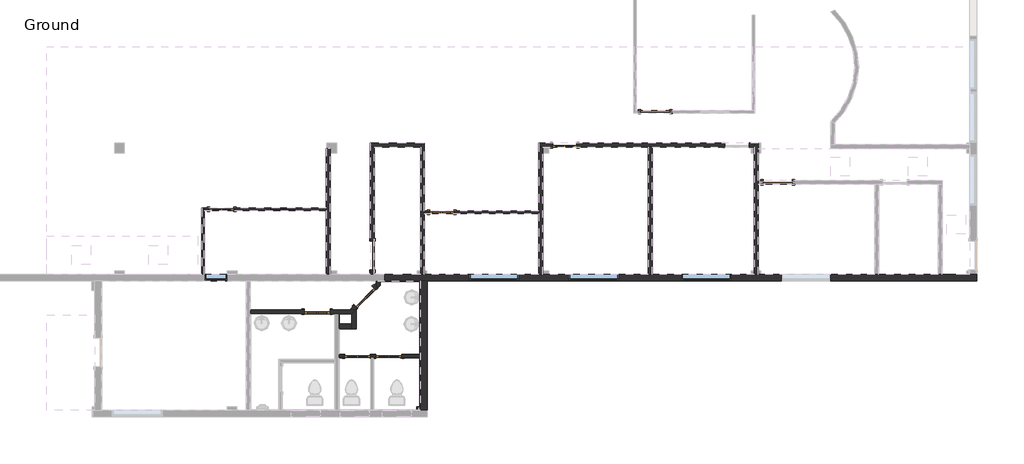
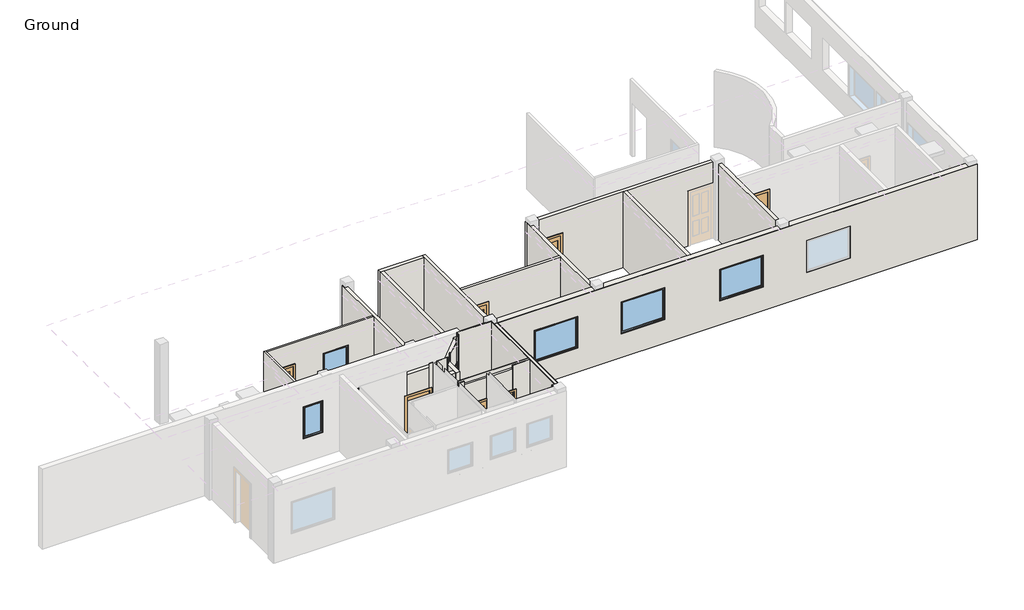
# One storey, part 2 of 4: 34 walls, 10 doors, 5 windows.
"""IFC4 building model written with IfcOpenShell, lengths in millimetres."""

from ifc_helpers import new_model, si_unit, frame, origin, origin_with_axes, place, context, project, spatial, polyline, outline, extrude, faceted_brep, transform, mapped, element, save
from components import door_43f271b1, door_e28fd1ca, door_ea126e43, door_dc1c1a0d, door_456b505c, door_238e255b, door_9f33a548, door_317ed896, window_b7da1b20, window_74e4fc61, window_a0bf6c86

model = new_model("IFC4")

# Units and contexts
model_context = context("Model", 3, world=origin())
ifc_project = project(units=[si_unit("LENGTHUNIT", "METRE", prefix="MILLI")], contexts=[model_context])

# Site, building, storey
site = spatial("IfcSite", under=ifc_project)
building = spatial("IfcBuilding", under=site)
storey = spatial("IfcBuildingStorey", under=building, Name="Ground", Elevation=0.0)

# Doors
placement = place(None, origin())
door_shape = door_43f271b1(model_context)
element("IfcDoor", 1, ObjectType="Single-Flush : 36\" x 80\" - D1", at=placement, inside=storey, context=model_context, shape_type="MappedRepresentation", body=[
    mapped(door_shape, transform((-12274.152824, 11880.82279, 0.0), x_axis=(-0.9999999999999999, 0.0, 0.0), y_axis=(0.0, -0.9999999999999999, 0.0), z_axis=(0.0, 0.0, 1.0))),
])
element("IfcDoor", 2, ObjectType="Single-Flush : 36\" x 80\" - D1", at=placement, inside=storey, context=model_context, shape_type="MappedRepresentation", body=[
    mapped(door_shape, transform((-25082.102824, 9569.42279, 0.0), x_axis=(0.0, -1.0, 0.0), y_axis=(1.0, 0.0, 0.0), z_axis=(0.0, 0.0, 1.0))),
])
door_2_shape = door_e28fd1ca(model_context)
element("IfcDoor", 3, ObjectType="Single-Flush : 36\" x 80\" - D1", at=placement, inside=storey, context=model_context, shape_type="MappedRepresentation", body=[
    mapped(door_2_shape, transform((-16141.302824, 14111.26029, 0.0), x_axis=(-0.9999999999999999, 0.0, 0.0), y_axis=(0.0, -0.9999999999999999, 0.0), z_axis=(0.0, 0.0, 1.0))),
])
door_3_shape = door_ea126e43(model_context)
element("IfcDoor", 4, ObjectType="Single-Glass 3 : 30\" x 80\" - D3", at=placement, inside=storey, context=model_context, shape_type="MappedRepresentation", body=[
    mapped(door_3_shape, transform((-22891.352824, 10934.67279, 0.0), x_axis=(-1.0, 0.0, 0.0), y_axis=(0.0, -1.0, 0.0), z_axis=(0.0, 0.0, 1.0))),
])
element("IfcDoor", 5, ObjectType="Single-Glass 3 : 30\" x 80\" - D3", at=placement, inside=storey, context=model_context, shape_type="MappedRepresentation", body=[
    mapped(door_3_shape, transform((-29843.015324, 11026.74779, 0.0), x_axis=(-1.0, 0.0, 0.0), y_axis=(0.0, -1.0, 0.0), z_axis=(0.0, 0.0, 1.0))),
])
door_4_shape = door_dc1c1a0d(model_context)
element("IfcDoor", 6, ObjectType="Single-Glass 3 : 30\" x 80\" - D3", at=placement, inside=storey, context=model_context, shape_type="MappedRepresentation", body=[
    mapped(door_4_shape, transform((-19005.152824, 13055.57279, 0.0), x_axis=(-1.0, 0.0, 0.0), y_axis=(0.0, -1.0, 0.0), z_axis=(0.0, 0.0, 1.0))),
])
door_5_shape = door_456b505c(model_context)
element("IfcDoor", 7, ObjectType="Single-Glass 3 : 32\" x 80\" - D2", at=placement, inside=storey, context=model_context, shape_type="MappedRepresentation", body=[
    mapped(door_5_shape, transform((-25552.002824, 6378.54779, 0.0), x_axis=(1.0, 0.0, 0.0), y_axis=(0.0, 1.0, 0.0), z_axis=(0.0, 0.0, 1.0))),
])
door_6_shape = door_238e255b(model_context)
element("IfcDoor", 8, ObjectType="Single-Glass 3 : 32\" x 80\" - D2", at=placement, inside=storey, context=model_context, shape_type="MappedRepresentation", body=[
    mapped(door_6_shape, transform((-25316.8739196, 8245.6266944, 0.0), x_axis=(-0.707106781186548, -0.7071067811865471, 0.0), y_axis=(0.7071067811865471, -0.707106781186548, 0.0), z_axis=(0.0, 0.0, 1.0))),
])
door_7_shape = door_9f33a548(model_context)
element("IfcDoor", 9, ObjectType="Single-Glass 3 : 32\" x 80\" - D2", at=placement, inside=storey, context=model_context, shape_type="MappedRepresentation", body=[
    mapped(door_7_shape, transform((-26822.002824, 7788.24779, 0.0), x_axis=(1.0, 0.0, 0.0), y_axis=(0.0, 1.0, 0.0), z_axis=(0.0, 0.0, 1.0))),
])
door_8_shape = door_317ed896(model_context)
element("IfcDoor", 10, ObjectType="Single-Glass 3 : 32\" x 80\" - D2", at=placement, inside=storey, context=model_context, shape_type="MappedRepresentation", body=[
    mapped(door_8_shape, transform((-24561.402824, 6378.54779, 0.0), x_axis=(-1.0, 0.0, 0.0), y_axis=(0.0, -1.0, 0.0), z_axis=(0.0, 0.0, 1.0))),
])

# Walls
element("IfcWall", 11, ObjectType="0.5\" wall tiles-4\" x 6\"", at=placement, inside=storey, context=model_context, shape_type="SweptSolid", body=[
    extrude(outline(polyline([(-26415.602824, 7724.74779), (-26275.902824, 7724.74779), (-26275.902824, 7712.04779), (-26415.602824, 7712.04779), (-26415.602824, 7724.74779)])), origin_with_axes(), (0.0, 0.0, 1.0), 3048.0),
])
element("IfcWall", 12, ObjectType="0.5\" wall tiles-4\" x 6\"", at=placement, inside=storey, context=model_context, shape_type="Brep", body=[
    faceted_brep([(-25560.375674, 7914.5674429, 0.0), (-25586.4560212, 7888.4870957, 0.0), (-25586.4560212, 7888.4870957, 2743.2), (-25586.4560212, 7888.4870957, 3048.0), (-25560.375674, 7914.5674429, 3048.0), (-25551.3954179, 7905.5871868, 0.0), (-25551.3954179, 7905.5871868, 3048.0), (-25586.4560212, 7870.5265835, 3048.0), (-25586.4560212, 7870.5265835, 0.0)], [[[0, 1, 2, 3, 4]], [[5, 6, 7, 8]], [[1, 0, 5, 8]], [[4, 3, 7, 6]], [[0, 4, 6, 5]], [[3, 2, 1, 8, 7]]]),
])
element("IfcWall", 13, ObjectType="0.5\" wall tiles-4\" x 6\"", at=placement, inside=storey, context=model_context, shape_type="Brep", body=[
    faceted_brep([(-25750.1953269, 7724.74779, 0.0), (-26136.202824, 7724.74779, 0.0), (-26136.202824, 7724.74779, 3048.0), (-25750.1953269, 7724.74779, 3048.0), (-25762.8953269, 7712.04779, 0.0), (-25762.8953269, 7712.04779, 3048.0), (-26123.502824, 7712.04779, 3048.0), (-26136.202824, 7712.04779, 3048.0), (-26136.202824, 7712.04779, 0.0), (-26123.502824, 7712.04779, 0.0)], [[[0, 1, 2, 3]], [[4, 5, 6, 7, 8, 9]], [[1, 0, 4, 9, 8]], [[3, 2, 7, 6, 5]], [[2, 1, 8, 7]], [[0, 3, 5, 4]]]),
])
element("IfcWall", 14, ObjectType="0.5\" wall tiles-4\" x 6\"", at=placement, inside=storey, context=model_context, shape_type="Brep", body=[
    faceted_brep([(-26136.202824, 7712.04779, 0.0), (-26136.202824, 7394.54779, 0.0), (-26136.202824, 7394.54779, 2743.2), (-26136.202824, 7394.54779, 3048.0), (-26136.202824, 7712.04779, 3048.0), (-26123.502824, 7712.04779, 0.0), (-26123.502824, 7712.04779, 3048.0), (-26123.502824, 7394.54779, 3048.0), (-26123.502824, 7394.54779, 0.0)], [[[0, 1, 2, 3, 4]], [[5, 6, 7, 8]], [[1, 0, 5, 8]], [[4, 3, 7, 6]], [[0, 4, 6, 5]], [[3, 2, 1, 8, 7]]]),
])
element("IfcWall", 15, ObjectType="0.5\" wall tiles-4\" x 6\"", at=placement, inside=storey, context=model_context, shape_type="Brep", body=[
    faceted_brep([(-25145.7268406, 6418.23529, 2032.0), (-25145.7268406, 6418.23529, 0.0), (-24967.6788075, 6418.23529, 0.0), (-24967.6788075, 6418.23529, 2032.0), (-24154.8788075, 6418.23529, 2032.0), (-24154.8788075, 6418.23529, 0.0), (-23566.040324, 6418.23529, 0.0), (-23566.040324, 6418.23529, 2895.6), (-23566.040324, 6418.23529, 3048.0), (-26136.202824, 6418.23529, 3048.0), (-26136.202824, 6418.23529, 2895.6), (-26136.202824, 6418.23529, 0.0), (-25958.5268406, 6418.23529, 0.0), (-25958.5268406, 6418.23529, 2032.0), (-24967.6788075, 6430.93529, 0.0), (-25145.7268406, 6430.93529, 0.0), (-25145.7268406, 6430.93529, 2032.0), (-25958.5268406, 6430.93529, 2032.0), (-25958.5268406, 6430.93529, 0.0), (-26123.502824, 6430.93529, 0.0), (-26136.202824, 6430.93529, 0.0), (-26136.202824, 6430.93529, 3048.0), (-26123.502824, 6430.93529, 3048.0), (-23578.740324, 6430.93529, 3048.0), (-23566.040324, 6430.93529, 3048.0), (-23566.040324, 6430.93529, 0.0), (-23578.740324, 6430.93529, 0.0), (-24154.8788075, 6430.93529, 0.0), (-24154.8788075, 6430.93529, 2032.0), (-24967.6788075, 6430.93529, 2032.0)], [[[0, 1, 2, 3, 4, 5, 6, 7, 8, 9, 10, 11, 12, 13]], [[14, 15, 16, 17, 18, 19, 20, 21, 22, 23, 24, 25, 26, 27, 28, 29]], [[2, 1, 15, 14]], [[27, 26, 25, 6, 5]], [[12, 11, 20, 19, 18]], [[9, 8, 24, 23, 22, 21]], [[11, 10, 9, 21, 20]], [[8, 7, 6, 25, 24]], [[3, 2, 14, 29]], [[4, 3, 29, 28]], [[5, 4, 28, 27]], [[16, 15, 1, 0]], [[17, 16, 0, 13]], [[18, 17, 13, 12]]]),
])
element("IfcWall", 16, ObjectType="0.5\" wall tiles-4\" x 6\"", at=placement, inside=storey, context=model_context, shape_type="Brep", body=[
    faceted_brep([(-25738.8560212, 7736.0870957, 0.0), (-25750.1953269, 7724.74779, 0.0), (-25762.8953269, 7712.04779, 0.0), (-25762.8953269, 7712.04779, 3048.0), (-25750.1953269, 7724.74779, 3048.0), (-25738.8560212, 7736.0870957, 3048.0), (-25738.8560212, 7736.0870957, 2743.2), (-25738.8560212, 7718.1265835, 0.0), (-25738.8560212, 7718.1265835, 3048.0), (-25744.9348146, 7712.04779, 3048.0), (-25744.9348146, 7712.04779, 0.0)], [[[0, 1, 2, 3, 4, 5, 6]], [[7, 8, 9, 10]], [[2, 1, 0, 7, 10]], [[5, 4, 3, 9, 8]], [[3, 2, 10, 9]], [[0, 6, 5, 8, 7]]]),
])
element("IfcWall", 17, ObjectType="0.5\" wall tiles-4\" x 6\"", at=placement, inside=storey, context=model_context, shape_type="Brep", body=[
    faceted_brep([(-23566.040324, 6430.93529, 0.0), (-23566.040324, 8753.44779, 0.0), (-23566.040324, 8753.44779, 3048.0), (-23566.040324, 6430.93529, 3048.0), (-23578.740324, 6430.93529, 0.0), (-23578.740324, 6430.93529, 3048.0), (-23578.740324, 8740.74779, 3048.0), (-23578.740324, 8753.44779, 3048.0), (-23578.740324, 8753.44779, 0.0), (-23578.740324, 8740.74779, 0.0)], [[[0, 1, 2, 3]], [[4, 5, 6, 7, 8, 9]], [[1, 0, 4, 9, 8]], [[3, 2, 7, 6, 5]], [[2, 1, 8, 7]], [[0, 3, 5, 4]]]),
])
element("IfcWall", 18, ObjectType="0.5\" wall tiles-4\" x 6\"", at=placement, inside=storey, context=model_context, shape_type="Brep", body=[
    faceted_brep([(-23578.740324, 8753.44779, 0.0), (-24836.040324, 8753.44779, 0.0), (-24836.040324, 8753.44779, 3048.0), (-23578.740324, 8753.44779, 3048.0), (-23578.740324, 8740.74779, 0.0), (-23578.740324, 8740.74779, 3048.0), (-24823.340324, 8740.74779, 3048.0), (-24836.040324, 8740.74779, 3048.0), (-24836.040324, 8740.74779, 0.0), (-24823.340324, 8740.74779, 0.0)], [[[0, 1, 2, 3]], [[4, 5, 6, 7, 8, 9]], [[1, 0, 4, 9, 8]], [[3, 2, 7, 6, 5]], [[2, 1, 8, 7]], [[0, 3, 5, 4]]]),
])
element("IfcWall", 19, ObjectType="0.5\" wall tiles-4\" x 6\"", at=placement, inside=storey, context=model_context, shape_type="Brep", body=[
    faceted_brep([(-24836.040324, 8740.74779, 0.0), (-24836.040324, 8638.9027929, 0.0), (-24836.040324, 8620.9422806, 0.0), (-24836.040324, 8620.9422806, 3048.0), (-24836.040324, 8638.9027929, 3048.0), (-24836.040324, 8740.74779, 3048.0), (-24823.340324, 8740.74779, 0.0), (-24823.340324, 8740.74779, 3048.0), (-24823.340324, 8633.6422806, 3048.0), (-24823.340324, 8633.6422806, 0.0)], [[[0, 1, 2, 3, 4, 5]], [[6, 7, 8, 9]], [[2, 1, 0, 6, 9]], [[5, 4, 3, 8, 7]], [[3, 2, 9, 8]], [[0, 5, 7, 6]]]),
])
element("IfcWall", 20, ObjectType="0.5\" wall tiles-4\" x 6\"", at=placement, inside=storey, context=model_context, shape_type="SweptSolid", body=[
    extrude(outline(polyline([(-24984.7299377, 8490.2131792), (-24836.040324, 8638.9027929), (-24836.040324, 8620.9422806), (-24975.7496815, 8481.2329231), (-24984.7299377, 8490.2131792)])), origin_with_axes(), (0.0, 0.0, 1.0), 3048.0),
])
element("IfcWall", 21, ObjectType="0.5\" wall tiles-4\" x 6\"", at=placement, inside=storey, context=model_context, shape_type="Brep", body=[
    faceted_brep([(-25958.5268406, 6338.86029, 0.0), (-26136.202824, 6338.86029, 0.0), (-26136.202824, 6338.86029, 3048.0), (-25958.5268406, 6338.86029, 3048.0), (-25958.5268406, 6326.16029, 0.0), (-25958.5268406, 6326.16029, 3048.0), (-26123.502824, 6326.16029, 3048.0), (-26136.202824, 6326.16029, 3048.0), (-26136.202824, 6326.16029, 0.0), (-26123.502824, 6326.16029, 0.0)], [[[0, 1, 2, 3]], [[4, 5, 6, 7, 8, 9]], [[1, 0, 4, 9, 8]], [[3, 2, 7, 6, 5]], [[0, 3, 5, 4]], [[2, 1, 8, 7]]]),
])
element("IfcWall", 22, ObjectType="0.5\" wall tiles-4\" x 6\"", at=placement, inside=storey, context=model_context, shape_type="Brep", body=[
    faceted_brep([(-23664.465324, 4687.86029, 0.0), (-23664.465324, 4773.58529, 0.0), (-23664.465324, 4786.28529, 0.0), (-23664.465324, 4786.28529, 3048.0), (-23664.465324, 4773.58529, 3048.0), (-23664.465324, 4687.86029, 3048.0), (-23677.165324, 4687.86029, 0.0), (-23677.165324, 4687.86029, 3048.0), (-23677.165324, 4786.28529, 3048.0), (-23677.165324, 4786.28529, 0.0)], [[[0, 1, 2, 3, 4, 5]], [[6, 7, 8, 9]], [[2, 1, 0, 6, 9]], [[5, 4, 3, 8, 7]], [[3, 2, 9, 8]], [[0, 5, 7, 6]]]),
])
element("IfcWall", 23, ObjectType="0.5\" wall tiles-4\" x 6\"", at=placement, inside=storey, context=model_context, shape_type="Brep", body=[
    faceted_brep([(-23664.465324, 4773.58529, 0.0), (-23566.040324, 4773.58529, 0.0), (-23566.040324, 4773.58529, 3048.0), (-23664.465324, 4773.58529, 3048.0), (-23664.465324, 4786.28529, 0.0), (-23664.465324, 4786.28529, 3048.0), (-23578.740324, 4786.28529, 3048.0), (-23566.040324, 4786.28529, 3048.0), (-23566.040324, 4786.28529, 0.0), (-23578.740324, 4786.28529, 0.0)], [[[0, 1, 2, 3]], [[4, 5, 6, 7, 8, 9]], [[1, 0, 4, 9, 8]], [[3, 2, 7, 6, 5]], [[2, 1, 8, 7]], [[0, 3, 5, 4]]]),
])
element("IfcWall", 24, ObjectType="0.5\" wall tiles-4\" x 6\"", at=placement, inside=storey, context=model_context, shape_type="Brep", body=[
    faceted_brep([(-23566.040324, 4786.28529, 0.0), (-23566.040324, 6338.86029, 0.0), (-23566.040324, 6338.86029, 3048.0), (-23566.040324, 4786.28529, 3048.0), (-23578.740324, 4786.28529, 0.0), (-23578.740324, 4786.28529, 3048.0), (-23578.740324, 6326.16029, 3048.0), (-23578.740324, 6338.86029, 3048.0), (-23578.740324, 6338.86029, 0.0), (-23578.740324, 6326.16029, 0.0)], [[[0, 1, 2, 3]], [[4, 5, 6, 7, 8, 9]], [[1, 0, 4, 9, 8]], [[3, 2, 7, 6, 5]], [[2, 1, 8, 7]], [[0, 3, 5, 4]]]),
])
element("IfcWall", 25, ObjectType="0.5\" wall tiles-4\" x 6\"", at=placement, inside=storey, context=model_context, shape_type="SweptSolid", body=[
    extrude(outline(polyline([(-24204.3928001, 6338.86029), (-23578.740324, 6338.86029), (-23578.740324, 6326.16029), (-24204.3928001, 6326.16029), (-24204.3928001, 6338.86029)])), origin_with_axes(), (0.0, 0.0, 1.0), 3048.0),
])
element("IfcWall", 26, ObjectType="Generic - 6\"", at=placement, inside=storey, context=model_context, shape_type="Brep", body=[
    faceted_brep([(-25738.8560212, 7736.0870957, 0.0), (-25738.8560212, 7718.1265835, 0.0), (-25738.8560212, 7394.54779, 0.0), (-25738.8560212, 7242.14779, 0.0), (-25738.8560212, 7242.14779, 2743.2), (-25738.8560212, 7394.54779, 2743.2), (-25738.8560212, 7736.0870957, 2743.2), (-25586.4560212, 7888.4870957, 0.0), (-25586.4560212, 7888.4870957, 2743.2), (-25586.4560212, 7242.14779, 2743.2), (-25586.4560212, 7242.14779, 0.0), (-25586.4560212, 7870.5265835, 0.0), (-25623.1953269, 7851.74779, 0.0)], [[[0, 1, 2, 3, 4, 5, 6]], [[7, 8, 9, 10, 11]], [[3, 2, 1, 0, 12, 7, 11, 10]], [[6, 5, 4, 9, 8]], [[4, 3, 10, 9]], [[0, 6, 8, 7, 12]]]),
])
element("IfcWall", 27, ObjectType="Generic - 6\"", at=placement, inside=storey, context=model_context, shape_type="Brep", body=[
    faceted_brep([(-25738.8560212, 7394.54779, 0.0), (-26123.502824, 7394.54779, 0.0), (-26136.202824, 7394.54779, 0.0), (-26136.202824, 7394.54779, 2743.2), (-25738.8560212, 7394.54779, 2743.2), (-25738.8560212, 7242.14779, 0.0), (-25738.8560212, 7242.14779, 2743.2), (-26136.202824, 7242.14779, 2743.2), (-26136.202824, 7242.14779, 0.0), (-26123.502824, 7242.14779, 0.0)], [[[0, 1, 2, 3, 4]], [[5, 6, 7, 8, 9]], [[2, 1, 0, 5, 9, 8]], [[4, 3, 7, 6]], [[3, 2, 8, 7]], [[0, 4, 6, 5]]]),
])
element("IfcWall", 28, ObjectType="Generic - 8\" Masonry existing", at=placement, inside=storey, context=model_context, shape_type="Brep", body=[
    faceted_brep([(-24701.102824, 8753.44779, 0.0), (-24701.102824, 8753.44779, 2895.6), (-24701.102824, 8766.14779, 2895.6), (-24701.102824, 8972.52279, 2895.6), (-24701.102824, 8972.52279, 0.0), (-5986.065324, 8753.44779, 0.0), (-23346.965324, 8753.44779, 0.0), (-23566.040324, 8753.44779, 0.0), (-23556.515324, 8972.52279, 0.0), (-23432.690324, 8972.52279, 0.0), (-19827.477824, 8972.52279, 0.0), (-19703.652824, 8972.52279, 0.0), (-16355.615324, 8972.52279, 0.0), (-16231.790324, 8972.52279, 0.0), (-13015.515324, 8972.52279, 0.0), (-12891.690324, 8972.52279, 0.0), (-9207.102824, 8972.52279, 0.0), (-9083.277824, 8972.52279, 0.0), (-7195.740324, 8972.52279, 0.0), (-7071.915324, 8972.52279, 0.0), (-6205.140324, 8972.52279, 0.0), (-5986.065324, 8972.52279, 0.0), (-5986.065324, 8753.44779, 2895.6), (-5998.765324, 8753.44779, 2895.6), (-23346.965324, 8753.44779, 2895.6), (-23566.040324, 8753.44779, 2895.6), (-22021.402824, 8753.44779, 2133.6), (-20446.602824, 8753.44779, 2133.6), (-20446.602824, 8753.44779, 914.4), (-22021.402824, 8753.44779, 914.4), (-18871.802824, 8753.44779, 2133.6), (-17297.002824, 8753.44779, 2133.6), (-17297.002824, 8753.44779, 914.4), (-18871.802824, 8753.44779, 914.4), (-12166.202824, 8753.44779, 2133.6), (-10591.402824, 8753.44779, 2133.6), (-10591.402824, 8753.44779, 914.4), (-12166.202824, 8753.44779, 914.4), (-15315.802824, 8753.44779, 2133.6), (-13741.002824, 8753.44779, 2133.6), (-13741.002824, 8753.44779, 914.4), (-15315.802824, 8753.44779, 914.4), (-23556.515324, 8972.52279, 2895.6), (-23432.690324, 8972.52279, 2895.6), (-19827.477824, 8972.52279, 2895.6), (-19703.652824, 8972.52279, 2895.6), (-16355.615324, 8972.52279, 2895.6), (-16231.790324, 8972.52279, 2895.6), (-13015.515324, 8972.52279, 2895.6), (-12891.690324, 8972.52279, 2895.6), (-9207.102824, 8972.52279, 2895.6), (-9083.277824, 8972.52279, 2895.6), (-7195.740324, 8972.52279, 2895.6), (-7071.915324, 8972.52279, 2895.6), (-6205.140324, 8972.52279, 2895.6), (-5998.765324, 8972.52279, 2895.6), (-5986.065324, 8972.52279, 2895.6), (-22021.402824, 8972.52279, 2133.6), (-22021.402824, 8972.52279, 914.4), (-20446.602824, 8972.52279, 914.4), (-20446.602824, 8972.52279, 2133.6), (-18871.802824, 8972.52279, 2133.6), (-18871.802824, 8972.52279, 914.4), (-17297.002824, 8972.52279, 914.4), (-17297.002824, 8972.52279, 2133.6), (-12166.202824, 8972.52279, 2133.6), (-12166.202824, 8972.52279, 914.4), (-10591.402824, 8972.52279, 914.4), (-10591.402824, 8972.52279, 2133.6), (-15315.802824, 8972.52279, 2133.6), (-15315.802824, 8972.52279, 914.4), (-13741.002824, 8972.52279, 914.4), (-13741.002824, 8972.52279, 2133.6), (-5986.065324, 8766.14779, 2895.6), (-5998.765324, 8766.14779, 2895.6), (-23359.665324, 8766.14779, 2895.6)], [[[0, 1, 2, 3, 4]], [[5, 6, 7, 0, 4, 8, 9, 10, 11, 12, 13, 14, 15, 16, 17, 18, 19, 20, 21]], [[0, 7, 6, 5, 22, 23, 24, 25, 1], [26, 27, 28, 29], [30, 31, 32, 33], [34, 35, 36, 37], [38, 39, 40, 41]], [[4, 3, 42, 43, 44, 45, 46, 47, 48, 49, 50, 51, 52, 53, 54, 55, 56, 21, 20, 19, 18, 17, 16, 15, 14, 13, 12, 11, 10, 9, 8], [57, 58, 59, 60], [61, 62, 63, 64], [65, 66, 67, 68], [69, 70, 71, 72]], [[22, 5, 21, 56, 73]], [[1, 25, 24, 23, 74, 75, 2]], [[73, 56, 55, 74]], [[23, 22, 73, 74]], [[74, 55, 54, 53, 52, 51, 50, 49, 48, 47, 46, 45, 44, 43, 42, 3, 2, 75]], [[58, 57, 26, 29]], [[59, 58, 29, 28]], [[60, 59, 28, 27]], [[57, 60, 27, 26]], [[62, 61, 30, 33]], [[63, 62, 33, 32]], [[64, 63, 32, 31]], [[61, 64, 31, 30]], [[66, 65, 34, 37]], [[67, 66, 37, 36]], [[68, 67, 36, 35]], [[65, 68, 35, 34]], [[70, 69, 38, 41]], [[71, 70, 41, 40]], [[72, 71, 40, 39]], [[69, 72, 39, 38]]]),
])
element("IfcWall", 29, ObjectType="Generic - 8\" Masonry existing", at=placement, inside=storey, context=model_context, shape_type="Brep", body=[
    faceted_brep([(-23566.040324, 8753.44779, 0.0), (-23566.040324, 6418.23529, 0.0), (-23566.040324, 6338.86029, 0.0), (-23566.040324, 4675.16029, 0.0), (-23566.040324, 4675.16029, 2895.6), (-23566.040324, 6338.86029, 2895.6), (-23566.040324, 6418.23529, 2895.6), (-23566.040324, 8753.44779, 2895.6), (-23346.965324, 8753.44779, 0.0), (-23346.965324, 8753.44779, 2895.6), (-23346.965324, 4675.16029, 2895.6), (-23346.965324, 4675.16029, 0.0), (-23359.665324, 4675.16029, 2895.6), (-23359.665324, 8753.44779, 2895.6)], [[[0, 1, 2, 3, 4, 5, 6, 7]], [[8, 9, 10, 11]], [[3, 2, 1, 0, 8, 11]], [[4, 3, 11, 10, 12]], [[0, 7, 13, 9, 8]], [[12, 10, 9, 13]], [[7, 6, 5, 4, 12, 13]]]),
])
element("IfcWall", 30, ObjectType="Interior - 3 1/8\" Partition (1-hr)", at=placement, inside=storey, context=model_context, shape_type="Brep", body=[
    faceted_brep([(-30476.427824, 11066.43529, 0.0), (-30476.427824, 8972.52279, 0.0), (-30476.427824, 8972.52279, 2895.6), (-30476.427824, 11066.43529, 2895.6), (-30397.052824, 11066.43529, 0.0), (-30397.052824, 11066.43529, 2895.6), (-30397.052824, 10987.06029, 2895.6), (-30397.052824, 8972.52279, 2895.6), (-30397.052824, 8972.52279, 0.0), (-30397.052824, 10987.06029, 0.0)], [[[0, 1, 2, 3]], [[4, 5, 6, 7, 8, 9]], [[1, 0, 4, 9, 8]], [[3, 2, 7, 6, 5]], [[0, 3, 5, 4]], [[2, 1, 8, 7]]]),
])
element("IfcWall", 31, ObjectType="Interior - 3 1/8\" Partition (1-hr)", at=placement, inside=storey, context=model_context, shape_type="SweptSolid", body=[
    extrude(outline(polyline([(0.0, -23432.690324), (0.0, -23272.2288075), (2032.0, -23272.2288075), (2032.0, -22510.2288075), (0.0, -22510.2288075), (0.0, -19827.477824), (2895.6, -19827.477824), (2895.6, -23432.690324), (0.0, -23432.690324)])), frame((0.0, 10894.98529, 0.0), z_axis=(0.0, 1.0, 0.0), x_axis=(0.0, 0.0, 1.0)), (0.0, 0.0, 1.0), 79.375),
])
element("IfcWall", 32, ObjectType="Interior - 3 1/8\" Partition (1-hr)", at=placement, inside=storey, context=model_context, shape_type="SweptSolid", body=[
    extrude(outline(polyline([(0.0, -30397.052824), (0.0, -30223.8913075), (2032.0, -30223.8913075), (2032.0, -29461.8913075), (0.0, -29461.8913075), (0.0, -26533.077824), (2895.6, -26533.077824), (2895.6, -30397.052824), (0.0, -30397.052824)]), holes=[polyline([(2133.6, -28369.815324), (2133.6, -27455.415324), (914.4, -27455.415324), (914.4, -28369.815324), (2133.6, -28369.815324)])]), frame((0.0, 10987.06029, 0.0), z_axis=(0.0, 1.0, 0.0), x_axis=(0.0, 0.0, 1.0)), (0.0, 0.0, 1.0), 79.375),
])
element("IfcWall", 33, ObjectType="Interior - 3 1/8\" Partition (1-hr)", at=placement, inside=storey, context=model_context, shape_type="Brep", body=[
    faceted_brep([(-25145.7268406, 6338.86029, 2032.0), (-25145.7268406, 6338.86029, 0.0), (-25123.377824, 6338.86029, 0.0), (-25044.002824, 6338.86029, 0.0), (-24967.6788075, 6338.86029, 0.0), (-24967.6788075, 6338.86029, 2032.0), (-24154.8788075, 6338.86029, 2032.0), (-24154.8788075, 6338.86029, 0.0), (-23566.040324, 6338.86029, 0.0), (-23566.040324, 6338.86029, 2895.6), (-25044.002824, 6338.86029, 2895.6), (-25123.377824, 6338.86029, 2895.6), (-26136.202824, 6338.86029, 2895.6), (-26136.202824, 6338.86029, 0.0), (-25958.5268406, 6338.86029, 0.0), (-25958.5268406, 6338.86029, 2032.0), (-24967.6788075, 6418.23529, 0.0), (-25145.7268406, 6418.23529, 0.0), (-25145.7268406, 6418.23529, 2032.0), (-25958.5268406, 6418.23529, 2032.0), (-25958.5268406, 6418.23529, 0.0), (-26136.202824, 6418.23529, 0.0), (-26136.202824, 6418.23529, 2895.6), (-23566.040324, 6418.23529, 2895.6), (-23566.040324, 6418.23529, 0.0), (-24154.8788075, 6418.23529, 0.0), (-24154.8788075, 6418.23529, 2032.0), (-24967.6788075, 6418.23529, 2032.0)], [[[0, 1, 2, 3, 4, 5, 6, 7, 8, 9, 10, 11, 12, 13, 14, 15]], [[16, 17, 18, 19, 20, 21, 22, 23, 24, 25, 26, 27]], [[4, 3, 2, 1, 17, 16]], [[25, 24, 8, 7]], [[14, 13, 21, 20]], [[12, 11, 10, 9, 23, 22]], [[9, 8, 24, 23]], [[13, 12, 22, 21]], [[5, 4, 16, 27]], [[6, 5, 27, 26]], [[7, 6, 26, 25]], [[18, 17, 1, 0]], [[19, 18, 0, 15]], [[20, 19, 15, 14]]]),
])
element("IfcWall", 34, ObjectType="Interior - 5 1/2\" Partition (1-hr)", at=placement, inside=storey, context=model_context, shape_type="Brep", body=[
    faceted_brep([(-12891.690324, 8972.52279, 0.0), (-12891.690324, 11818.91029, 0.0), (-12891.690324, 11942.73529, 0.0), (-12891.690324, 13117.48529, 0.0), (-12891.690324, 13117.48529, 2895.6), (-12891.690324, 11942.73529, 2895.6), (-12891.690324, 11818.91029, 2895.6), (-12891.690324, 8972.52279, 2895.6), (-13015.515324, 8972.52279, 0.0), (-13015.515324, 8972.52279, 2895.6), (-13015.515324, 12993.66029, 2895.6), (-13015.515324, 13117.48529, 2895.6), (-13015.515324, 13117.48529, 0.0), (-13015.515324, 12993.66029, 0.0)], [[[0, 1, 2, 3, 4, 5, 6, 7]], [[8, 9, 10, 11, 12, 13]], [[3, 2, 1, 0, 8, 13, 12]], [[7, 6, 5, 4, 11, 10, 9]], [[4, 3, 12, 11]], [[0, 7, 9, 8]]]),
])
element("IfcWall", 35, ObjectType="Interior - 5 1/2\" Partition (1-hr)", at=placement, inside=storey, context=model_context, shape_type="Brep", body=[
    faceted_brep([(-13015.515324, 12993.66029, 0.0), (-13175.9768406, 12993.66029, 0.0), (-13175.9768406, 13117.48529, 0.0), (-13015.515324, 13117.48529, 0.0), (-19827.477824, 12993.66029, 0.0), (-19827.477824, 13117.48529, 0.0), (-19386.0288075, 13117.48529, 0.0), (-19386.0288075, 12993.66029, 0.0), (-19703.652824, 12993.66029, 0.0), (-13937.9768406, 12993.66029, 0.0), (-16231.790324, 12993.66029, 0.0), (-16355.615324, 12993.66029, 0.0), (-18624.0288075, 12993.66029, 0.0), (-18624.0288075, 13117.48529, 0.0), (-13937.9768406, 13117.48529, 0.0), (-13015.515324, 13117.48529, 2895.6), (-19827.477824, 13117.48529, 2895.6), (-19827.477824, 12993.66029, 2895.6), (-19703.652824, 12993.66029, 2895.6), (-16355.615324, 12993.66029, 2895.6), (-16231.790324, 12993.66029, 2895.6), (-13015.515324, 12993.66029, 2895.6), (-13175.9768406, 13117.48529, 2032.0), (-13937.9768406, 13117.48529, 2032.0), (-18624.0288075, 13117.48529, 2032.0), (-19386.0288075, 13117.48529, 2032.0), (-13175.9768406, 12993.66029, 2032.0), (-19386.0288075, 12993.66029, 2032.0), (-18624.0288075, 12993.66029, 2032.0), (-13937.9768406, 12993.66029, 2032.0)], [[[0, 1, 2, 3]], [[4, 5, 6, 7, 8]], [[9, 10, 11, 12, 13, 14]], [[15, 16, 17, 18, 19, 20, 21]], [[3, 2, 22, 23, 14, 13, 24, 25, 6, 5, 16, 15]], [[26, 1, 0, 21, 20, 19, 18, 17, 4, 8, 7, 27, 28, 12, 11, 10, 9, 29]], [[3, 15, 21, 0]], [[16, 5, 4, 17]], [[25, 27, 7, 6]], [[27, 25, 24, 28]], [[28, 24, 13, 12]], [[22, 2, 1, 26]], [[23, 22, 26, 29]], [[14, 23, 29, 9]]]),
])
element("IfcWall", 36, ObjectType="Interior - 5 1/2\" Partition (1-hr)", at=placement, inside=storey, context=model_context, shape_type="SweptSolid", body=[
    extrude(outline(polyline([(-16355.615324, 8972.52279), (-16355.615324, 12993.66029), (-16231.790324, 12993.66029), (-16231.790324, 8972.52279), (-16355.615324, 8972.52279)])), origin_with_axes(), (0.0, 0.0, 1.0), 2895.6),
])
element("IfcWall", 37, ObjectType="Interior - 5 1/2\" Partition (1-hr)", at=placement, inside=storey, context=model_context, shape_type="Brep", body=[
    faceted_brep([(-19703.652824, 8972.52279, 0.0), (-19703.652824, 12993.66029, 0.0), (-19703.652824, 12993.66029, 2895.6), (-19703.652824, 8972.52279, 2895.6), (-19827.477824, 8972.52279, 0.0), (-19827.477824, 8972.52279, 2895.6), (-19827.477824, 10894.98529, 2895.6), (-19827.477824, 10974.36029, 2895.6), (-19827.477824, 12993.66029, 2895.6), (-19827.477824, 12993.66029, 0.0), (-19827.477824, 10974.36029, 0.0), (-19827.477824, 10894.98529, 0.0)], [[[0, 1, 2, 3]], [[4, 5, 6, 7, 8, 9, 10, 11]], [[1, 0, 4, 11, 10, 9]], [[3, 2, 8, 7, 6, 5]], [[2, 1, 9, 8]], [[0, 3, 5, 4]]]),
])
element("IfcWall", 38, ObjectType="Interior - 5 1/2\" Partition (1-hr)", at=placement, inside=storey, context=model_context, shape_type="Brep", body=[
    faceted_brep([(-23556.515324, 13117.48529, 0.0), (-23556.515324, 12993.66029, 0.0), (-23556.515324, 8972.52279, 0.0), (-23556.515324, 8972.52279, 2895.6), (-23556.515324, 12993.66029, 2895.6), (-23556.515324, 13117.48529, 2895.6), (-23432.690324, 13117.48529, 0.0), (-23432.690324, 13117.48529, 2895.6), (-23432.690324, 10974.36029, 2895.6), (-23432.690324, 10894.98529, 2895.6), (-23432.690324, 8972.52279, 2895.6), (-23432.690324, 8972.52279, 0.0), (-23432.690324, 10894.98529, 0.0), (-23432.690324, 10974.36029, 0.0)], [[[0, 1, 2, 3, 4, 5]], [[6, 7, 8, 9, 10, 11, 12, 13]], [[2, 1, 0, 6, 13, 12, 11]], [[5, 4, 3, 10, 9, 8, 7]], [[0, 5, 7, 6]], [[3, 2, 11, 10]]]),
])
element("IfcWall", 39, ObjectType="Interior - 5 1/2\" Partition (1-hr)", at=placement, inside=storey, context=model_context, shape_type="Brep", body=[
    faceted_brep([(-26533.077824, 12947.62279, 0.0), (-26533.077824, 11066.43529, 0.0), (-26533.077824, 10987.06029, 0.0), (-26533.077824, 8972.52279, 0.0), (-26533.077824, 8972.52279, 2895.6), (-26533.077824, 10987.06029, 2895.6), (-26533.077824, 11066.43529, 2895.6), (-26533.077824, 12947.62279, 2895.6), (-26409.252824, 12947.62279, 0.0), (-26409.252824, 12947.62279, 2895.6), (-26409.252824, 8972.52279, 2895.6), (-26409.252824, 8972.52279, 0.0)], [[[0, 1, 2, 3, 4, 5, 6, 7]], [[8, 9, 10, 11]], [[3, 2, 1, 0, 8, 11]], [[7, 6, 5, 4, 10, 9]], [[0, 7, 9, 8]], [[4, 3, 11, 10]]]),
])
element("IfcWall", 40, ObjectType="Interior - 5 1/2\" Partition (1-hr)", at=placement, inside=storey, context=model_context, shape_type="Brep", body=[
    faceted_brep([(-23556.515324, 13117.48529, 0.0), (-25144.015324, 13117.48529, 0.0), (-25144.015324, 13117.48529, 2895.6), (-23556.515324, 13117.48529, 2895.6), (-23556.515324, 12993.66029, 0.0), (-23556.515324, 12993.66029, 2895.6), (-25020.190324, 12993.66029, 2895.6), (-25144.015324, 12993.66029, 2895.6), (-25144.015324, 12993.66029, 0.0), (-25020.190324, 12993.66029, 0.0)], [[[0, 1, 2, 3]], [[4, 5, 6, 7, 8, 9]], [[1, 0, 4, 9, 8]], [[3, 2, 7, 6, 5]], [[2, 1, 8, 7]], [[0, 3, 5, 4]]]),
])
element("IfcWall", 41, ObjectType="Interior - 5 1/2\" Partition (1-hr)", at=placement, inside=storey, context=model_context, shape_type="SweptSolid", body=[
    extrude(outline(polyline([(9112.22279, 2032.0), (9112.22279, 0.0), (8972.52279, 0.0), (8972.52279, 2895.6), (12993.66029, 2895.6), (12993.66029, 0.0), (10026.62279, 0.0), (10026.62279, 2032.0), (9112.22279, 2032.0)])), frame((-25144.015324, 0.0, 0.0), z_axis=(1.0, 0.0, 0.0), x_axis=(0.0, 1.0, 0.0)), (0.0, 0.0, 1.0), 123.825),
])
element("IfcWall", 42, ObjectType="Interior - 5 1/2\" Partition (1-hr)", at=placement, inside=storey, context=model_context, shape_type="Brep", body=[
    faceted_brep([(-24959.865324, 8753.44779, 0.0), (-24959.865324, 8690.1927872, 0.0), (-24959.865324, 8515.0777929, 0.0), (-24959.865324, 8515.0777929, 2895.6), (-24959.865324, 8690.1927872, 2895.6), (-24959.865324, 8753.44779, 2895.6), (-24836.040324, 8753.44779, 0.0), (-24836.040324, 8753.44779, 2895.6), (-24836.040324, 8638.9027929, 2895.6), (-24836.040324, 8638.9027929, 0.0)], [[[0, 1, 2, 3, 4, 5]], [[6, 7, 8, 9]], [[2, 1, 0, 6, 9]], [[5, 4, 3, 8, 7]], [[0, 5, 7, 6]], [[3, 2, 9, 8]]]),
])
element("IfcWall", 43, ObjectType="Interior - 5 1/2\" Partition (1-hr)", at=placement, inside=storey, context=model_context, shape_type="Brep", body=[
    faceted_brep([(-25798.3103212, 7851.74779, 2895.6), (-24959.865324, 8690.1927872, 2895.6), (-24959.865324, 8690.1927872, 0.0), (-25073.1967794, 8576.8613318, 0.0), (-25073.1967794, 8576.8613318, 2032.0), (-25647.9331712, 8002.1249401, 2032.0), (-25647.9331712, 8002.1249401, 0.0), (-25798.3103212, 7851.74779, 0.0), (-24959.865324, 8515.0777929, 2895.6), (-25623.1953269, 7851.74779, 2895.6), (-25623.1953269, 7851.74779, 0.0), (-25586.4560212, 7888.4870957, 0.0), (-25560.375674, 7914.5674429, 0.0), (-25560.375674, 7914.5674429, 2032.0), (-24985.6392823, 8489.3038346, 2032.0), (-24985.6392823, 8489.3038346, 0.0), (-24959.865324, 8515.0777929, 0.0)], [[[0, 1, 2, 3, 4, 5, 6, 7]], [[8, 9, 10, 11, 12, 13, 14, 15, 16]], [[2, 16, 15, 3]], [[10, 7, 6, 12, 11]], [[1, 0, 9, 8]], [[2, 1, 8, 16]], [[0, 7, 10, 9]], [[5, 13, 12, 6]], [[13, 5, 4, 14]], [[14, 4, 3, 15]]]),
])
element("IfcWall", 44, ObjectType="Interior - 5\" Partition (2-hr)", at=placement, inside=storey, context=model_context, shape_type="Brep", body=[
    faceted_brep([(-26415.7268406, 7724.74779, 2032.0), (-26415.7268406, 7724.74779, 0.0), (-26263.202824, 7724.74779, 0.0), (-26136.202824, 7724.74779, 0.0), (-25750.1953269, 7724.74779, 0.0), (-25750.1953269, 7724.74779, 2895.6), (-26136.202824, 7724.74779, 2895.6), (-26263.202824, 7724.74779, 2895.6), (-28941.315324, 7724.74779, 2895.6), (-28941.315324, 7724.74779, 0.0), (-27228.5268406, 7724.74779, 0.0), (-27228.5268406, 7724.74779, 2032.0), (-25623.1953269, 7851.74779, 0.0), (-25798.3103212, 7851.74779, 0.0), (-26415.7268406, 7851.74779, 0.0), (-26415.7268406, 7851.74779, 2032.0), (-27228.5268406, 7851.74779, 2032.0), (-27228.5268406, 7851.74779, 0.0), (-28941.315324, 7851.74779, 0.0), (-28941.315324, 7851.74779, 2895.6), (-25798.3103212, 7851.74779, 2895.6), (-25623.1953269, 7851.74779, 2895.6)], [[[0, 1, 2, 3, 4, 5, 6, 7, 8, 9, 10, 11]], [[12, 13, 14, 15, 16, 17, 18, 19, 20, 21]], [[4, 3, 2, 1, 14, 13, 12]], [[10, 9, 18, 17]], [[8, 7, 6, 5, 21, 20, 19]], [[9, 8, 19, 18]], [[5, 4, 12, 21]], [[15, 14, 1, 0]], [[16, 15, 0, 11]], [[17, 16, 11, 10]]]),
])

# Windows
window_shape = window_b7da1b20(model_context)
element("IfcWindow", 45, ObjectType="Fixed : 28\" x 48\" - W4", at=placement, inside=storey, context=model_context, shape_type="MappedRepresentation", body=[
    mapped(window_shape, transform((-30054.152824, 8862.98529, 0.0), x_axis=(-1.0, 0.0, 0.0), y_axis=(0.0, -1.0, 0.0), z_axis=(0.0, 0.0, 1.0))),
])
window_2_shape = window_74e4fc61(model_context)
element("IfcWindow", 46, ObjectType="Fixed : 36\" x 48\" - W2", at=placement, inside=storey, context=model_context, shape_type="MappedRepresentation", body=[
    mapped(window_2_shape, transform((-27950.715324, 11026.74779, 0.0), x_axis=(-1.0, 0.0, 0.0), y_axis=(0.0, -1.0, 0.0), z_axis=(0.0, 0.0, 1.0))),
])
window_3_shape = window_a0bf6c86(model_context)
element("IfcWindow", 47, ObjectType="Fixed : 60\" x 48\" - W1", at=placement, inside=storey, context=model_context, shape_type="MappedRepresentation", body=[
    mapped(window_3_shape, transform((-14566.502824, 8862.98529, 0.0), x_axis=(-1.0, 0.0, 0.0), y_axis=(0.0, -1.0, 0.0), z_axis=(0.0, 0.0, 1.0))),
])
element("IfcWindow", 48, ObjectType="Fixed : 60\" x 48\" - W1", at=placement, inside=storey, context=model_context, shape_type="MappedRepresentation", body=[
    mapped(window_3_shape, transform((-18122.502824, 8862.98529, 0.0), x_axis=(-1.0, 0.0, 0.0), y_axis=(0.0, -1.0, 0.0), z_axis=(0.0, 0.0, 1.0))),
])
element("IfcWindow", 49, ObjectType="Fixed : 60\" x 48\" - W1", at=placement, inside=storey, context=model_context, shape_type="MappedRepresentation", body=[
    mapped(window_3_shape, transform((-21272.102824, 8862.98529, 0.0), x_axis=(-1.0, 0.0, 0.0), y_axis=(0.0, -1.0, 0.0), z_axis=(0.0, 0.0, 1.0))),
])

save(model, "model.ifc")
